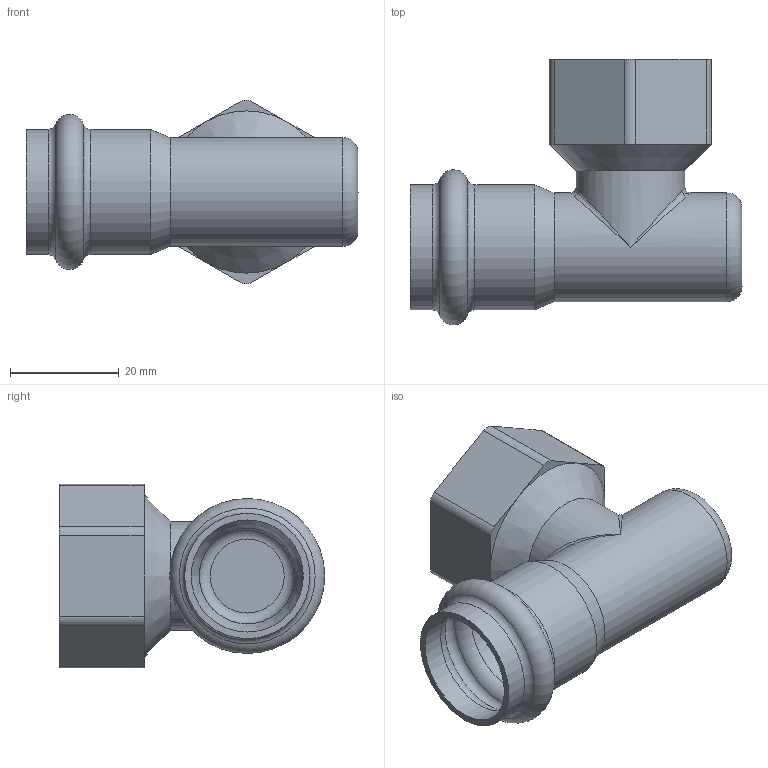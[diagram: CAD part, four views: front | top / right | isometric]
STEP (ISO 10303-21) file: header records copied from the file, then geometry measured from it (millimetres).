
FILE_DESCRIPTION(/* description */ (''),/* implementation_level */ '2;1');
FILE_NAME(/* name */ '51269010101.stp',/* time_stamp */ '2020-06-22T14:54:56+08:00',/* author */ (''),/* organization */ (''),/* preprocessor_version */ 'ST-DEVELOPER v11',/* originating_system */ 'SIEMENS PLM Software NX 7.5',/* authorisation */ '');
FILE_SCHEMA (('CONFIG_CONTROL_DESIGN'));
Length unit declared in the file: millimetre
Products named in the file (1): Admi4F60b49l
Bounding box: 61 x 48.78 x 33.79 mm (x, y, z)
Volume: 10685.2 mm3; surface area: 12932.8 mm2
Topology: 1 solids, 1 shells, 48 faces, 109 edges, 61 vertices
Faces by surface type: plane 18, cylinder 15, torus 8, cone 5, bspline 2
Full cylindrical faces by diameter (mm): 17.6 x1, 18.4 x1, 20 x2, 20.6 x2, 23 x2, 24.117 x1
Entity records: 1398 total; most frequent: CARTESIAN_POINT 337, DIRECTION 220, ORIENTED_EDGE 162, AXIS2_PLACEMENT_3D 94, EDGE_CURVE 81, EDGE_LOOP 74, VERTEX_POINT 59, FACE_BOUND 50
